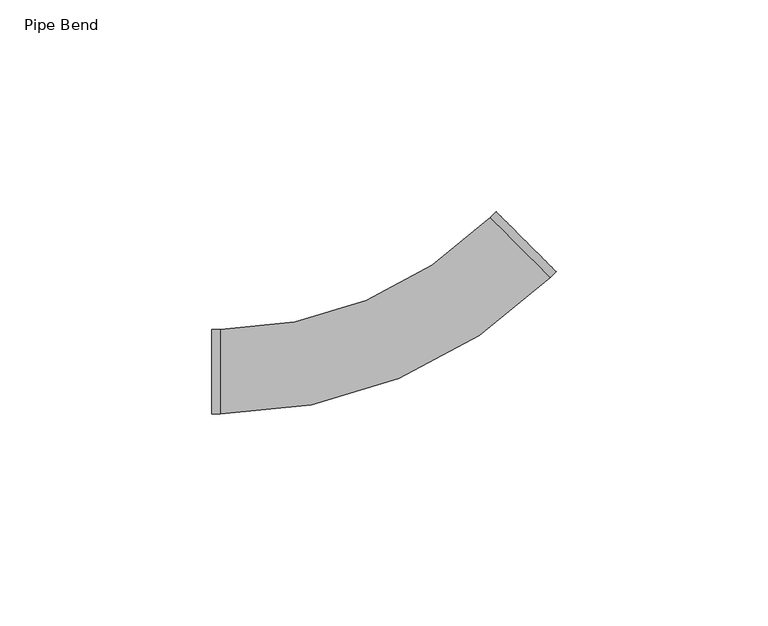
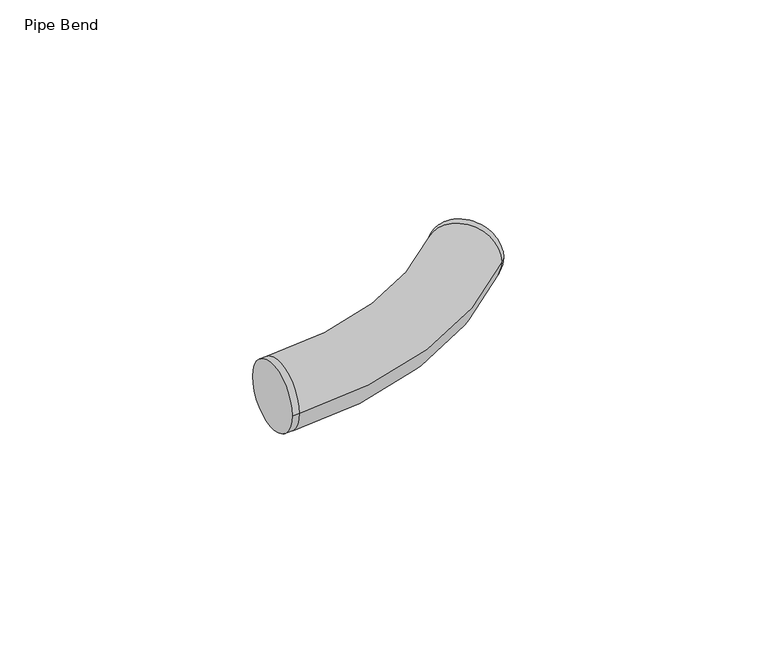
"""IFC4 building model written with IfcOpenShell, lengths in millimetres: pipe fitting geometry, Pipe Bend."""

from ifc_helpers import new_model, si_unit, point, frame, origin, place, context, project, spatial, circle_curve, ellipse_curve, trimmed, source, transform, mapped, element, save
from ifc_brep_helpers import plane_surface, cylinder_surface, revolved_surface, advanced_brep


def pipe_bend_90816637(model_context):
    return source(origin(), model_context, "Body", "AdvancedBrep", [
        advanced_brep(
        [(-43.4213562, -10.0, 0.0), (-43.4213562, 10.0, 0.0), (-41.4213562, -10.0, 0.0), (-41.4213562, 10.0, 0.0), (22.2182541, 36.3603897, 0.0), (36.3603897, 22.2182541, 0.0), (29.2893219, 29.2893219, 10.0), (29.2893219, 29.2893219, -10.0), (37.7746033, 23.6324676, 0.0), (23.6324676, 37.7746033, 0.0)],
        [
            (0, 1, circle_curve(frame((-43.4213562, 0.0, 0.0), z_axis=(-1.0, 0.0, 0.0), x_axis=(0.0, 1.0, 0.0)), 10.0)),
            (1, 0, circle_curve(frame((-43.4213562, 0.0, 0.0), z_axis=(-1.0, 0.0, 0.0), x_axis=(0.0, 1.0, 0.0)), 10.0)),
            (0, 2),
            (2, 3, circle_curve(frame((-41.4213562, 0.0, 0.0), z_axis=(-1.0, 0.0, 0.0), x_axis=(0.0, 1.0, 0.0)), 10.0)),
            (3, 1),
            (3, 2, circle_curve(frame((-41.4213562, 0.0, 0.0), z_axis=(-1.0, 0.0, 0.0), x_axis=(0.0, 1.0, 0.0)), 10.0)),
            (4, 3, circle_curve(frame((-41.4213562, 100.0, 0.0), z_axis=(0.0, 0.0, -1.0), x_axis=(0.0, -1.0000000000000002, 0.0)), 90.0)),
            (2, 5, circle_curve(frame((-41.4213562, 100.0, 0.0), z_axis=(0.0, 0.0, 1.0), x_axis=(0.0, -1.0000000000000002, 0.0)), 110.0)),
            (5, 6, circle_curve(frame((29.2893219, 29.2893219, 0.0), z_axis=(-0.7071067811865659, -0.7071067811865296, 0.0), x_axis=(-0.7071067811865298, 0.7071067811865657, 0.0)), 10.0)),
            (6, 4, circle_curve(frame((29.2893219, 29.2893219, 0.0), z_axis=(-0.7071067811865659, -0.7071067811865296, 0.0), x_axis=(-0.7071067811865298, 0.7071067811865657, 0.0)), 10.0)),
            (4, 7, circle_curve(frame((29.2893219, 29.2893219, 0.0), z_axis=(-0.7071067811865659, -0.7071067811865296, 0.0), x_axis=(-0.7071067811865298, 0.7071067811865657, 0.0)), 10.0)),
            (7, 5, circle_curve(frame((29.2893219, 29.2893219, 0.0), z_axis=(-0.7071067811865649, -0.7071067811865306, 0.0), x_axis=(-0.7071067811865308, 0.7071067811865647, 0.0)), 10.0)),
            (8, 9, circle_curve(frame((30.7035354, 30.7035354, 0.0), z_axis=(0.7071067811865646, 0.7071067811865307, 0.0), x_axis=(-0.7071067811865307, 0.7071067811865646, 0.0)), 10.0)),
            (9, 8, circle_curve(frame((30.7035354, 30.7035354, 0.0), z_axis=(0.7071067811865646, 0.7071067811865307, 0.0), x_axis=(-0.7071067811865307, 0.7071067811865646, 0.0)), 10.0)),
            (9, 4),
            (5, 8),
        ],
        [
            plane_surface(frame((-43.4213562, 0.0, 0.0), z_axis=(-1.0, 0.0, 0.0), x_axis=(0.0, 0.0, 1.0))),
            cylinder_surface(frame((-43.4213562, 0.0, 0.0), z_axis=(-1.0, 0.0, 0.0), x_axis=(0.0, 1.0, 0.0)), 10.0),
            revolved_surface(trimmed(ellipse_curve(frame((-41.4213562, 0.0, 0.0), z_axis=(-1.0000000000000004, 0.0, 0.0), x_axis=(0.0, 1.0000000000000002, 0.0)), 10.0, 10.0), [point((-41.4213562, -10.0, 0.0))], [point((-41.4213562, 10.0, 0.0))], True, "CARTESIAN"), (-41.4213562, 100.0, 0.0), (0.0, 0.0, 1.0000000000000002)),
            revolved_surface(trimmed(ellipse_curve(frame((-41.4213562, 0.0, 0.0), z_axis=(-1.0000000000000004, 0.0, 0.0), x_axis=(0.0, 1.0000000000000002, 0.0)), 10.0, 10.0), [point((-41.4213562, 10.0, 0.0))], [point((-41.4213562, -10.0, 0.0))], True, "CARTESIAN"), (-41.4213562, 100.0, 0.0), (0.0, 0.0, 1.0000000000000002)),
            plane_surface(frame((30.7035354, 30.7035354, 0.0), z_axis=(0.7071067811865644, 0.7071067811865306, 0.0), x_axis=(0.0, 0.0, 1.0))),
            cylinder_surface(frame((29.2893219, 29.2893219, 0.0), z_axis=(-0.7071067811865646, -0.7071067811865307, 0.0), x_axis=(-0.7071067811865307, 0.7071067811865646, 0.0)), 10.0),
        ],
        [
            (0, [[1, 2]]),
            (1, [[-1, 3, 4, 5]]),
            (1, [[-2, -5, 6, -3]]),
            (2, [[7, -4, 8, 9, 10]]),
            (3, [[-7, 11, 12, -8, -6]]),
            (4, [[13, 14]]),
            (5, [[-14, 15, -10, -9, 16]]),
            (5, [[-13, -16, -12, -11, -15]]),
        ],
    ),
    ])


if __name__ == "__main__":
    model = new_model("IFC4")
    model_context = context("Model", 3, world=origin())
    ifc_project = project(units=[si_unit("LENGTHUNIT", "METRE", prefix="MILLI")], contexts=[model_context])
    site = spatial("IfcSite", under=ifc_project)
    building = spatial("IfcBuilding", under=site)
    placement = place(None, origin())
    pipe_bend_shape = pipe_bend_90816637(model_context)
    element("IfcPipeFitting", 1, ObjectType="Pipe Bend", at=placement, inside=building, context=model_context, shape_type="MappedRepresentation", body=[
        mapped(pipe_bend_shape, transform((0.0, 0.0, 0.0), x_axis=(1.0, 0.0, 0.0), y_axis=(0.0, 1.0, 0.0), z_axis=(0.0, 0.0, 1.0))),
    ])
    save(model, "model.ifc")
